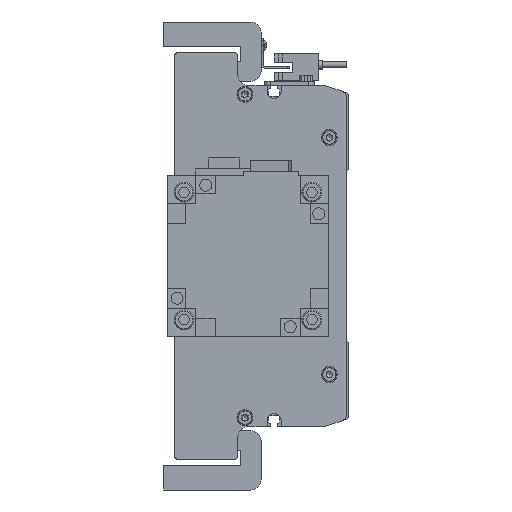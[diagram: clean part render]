
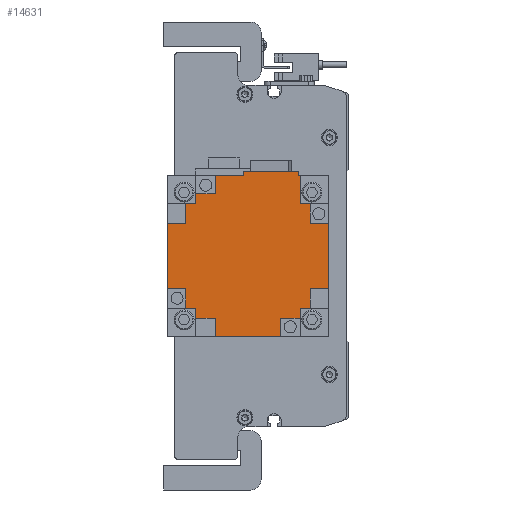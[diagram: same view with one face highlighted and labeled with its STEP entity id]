
A CAD part, left-side view. The second image highlights one B-rep face of the part: STEP entity #14631.
In plain terms, the highlighted planar face has unit normal (-1, 0, 0) as drawn and (0, 1, 0) by its records, which use the part's own axes.
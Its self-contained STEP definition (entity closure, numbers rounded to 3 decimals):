
#1456=ORIENTED_EDGE('',*,*,#5492,.T.);
#1457=ORIENTED_EDGE('',*,*,#5493,.T.);
#1458=ORIENTED_EDGE('',*,*,#5494,.T.);
#1459=ORIENTED_EDGE('',*,*,#5495,.T.);
#1460=ORIENTED_EDGE('',*,*,#5496,.T.);
#1461=ORIENTED_EDGE('',*,*,#5497,.F.);
#1462=ORIENTED_EDGE('',*,*,#5498,.F.);
#1463=ORIENTED_EDGE('',*,*,#5499,.T.);
#1464=ORIENTED_EDGE('',*,*,#5500,.T.);
#1465=ORIENTED_EDGE('',*,*,#5501,.T.);
#1466=ORIENTED_EDGE('',*,*,#5502,.T.);
#1467=ORIENTED_EDGE('',*,*,#5503,.T.);
#1468=ORIENTED_EDGE('',*,*,#5504,.F.);
#1469=ORIENTED_EDGE('',*,*,#5505,.F.);
#1470=ORIENTED_EDGE('',*,*,#5506,.T.);
#1471=ORIENTED_EDGE('',*,*,#5507,.T.);
#1472=ORIENTED_EDGE('',*,*,#5508,.T.);
#1473=ORIENTED_EDGE('',*,*,#5509,.T.);
#1474=ORIENTED_EDGE('',*,*,#5510,.T.);
#1475=ORIENTED_EDGE('',*,*,#5511,.F.);
#1476=ORIENTED_EDGE('',*,*,#5512,.F.);
#1477=ORIENTED_EDGE('',*,*,#5483,.T.);
#1478=ORIENTED_EDGE('',*,*,#5513,.F.);
#1479=ORIENTED_EDGE('',*,*,#5474,.F.);
#1480=ORIENTED_EDGE('',*,*,#5514,.T.);
#1481=ORIENTED_EDGE('',*,*,#5489,.T.);
#1482=ORIENTED_EDGE('',*,*,#5515,.T.);
#1483=ORIENTED_EDGE('',*,*,#5516,.T.);
#1484=ORIENTED_EDGE('',*,*,#5517,.F.);
#1485=ORIENTED_EDGE('',*,*,#5518,.F.);
#5474=EDGE_CURVE('',#7524,#7525,#9006,.T.);
#5483=EDGE_CURVE('',#7534,#7532,#9015,.T.);
#5489=EDGE_CURVE('',#7540,#7539,#9021,.T.);
#5492=EDGE_CURVE('',#7542,#7543,#9024,.T.);
#5493=EDGE_CURVE('',#7543,#7544,#9025,.T.);
#5494=EDGE_CURVE('',#7544,#7545,#9026,.T.);
#5495=EDGE_CURVE('',#7545,#7546,#9027,.T.);
#5496=EDGE_CURVE('',#7546,#7547,#9028,.T.);
#5497=EDGE_CURVE('',#7548,#7547,#9029,.T.);
#5498=EDGE_CURVE('',#7549,#7548,#9030,.T.);
#5499=EDGE_CURVE('',#7549,#7550,#9031,.T.);
#5500=EDGE_CURVE('',#7550,#7551,#9032,.T.);
#5501=EDGE_CURVE('',#7551,#7552,#9033,.T.);
#5502=EDGE_CURVE('',#7552,#7553,#9034,.T.);
#5503=EDGE_CURVE('',#7553,#7554,#9035,.T.);
#5504=EDGE_CURVE('',#7555,#7554,#9036,.T.);
#5505=EDGE_CURVE('',#7556,#7555,#9037,.T.);
#5506=EDGE_CURVE('',#7556,#7557,#9038,.T.);
#5507=EDGE_CURVE('',#7557,#7558,#9039,.T.);
#5508=EDGE_CURVE('',#7558,#7559,#9040,.T.);
#5509=EDGE_CURVE('',#7559,#7560,#9041,.T.);
#5510=EDGE_CURVE('',#7560,#7561,#9042,.T.);
#5511=EDGE_CURVE('',#7562,#7561,#9043,.T.);
#5512=EDGE_CURVE('',#7534,#7562,#9044,.T.);
#5513=EDGE_CURVE('',#7525,#7532,#9045,.T.);
#5514=EDGE_CURVE('',#7524,#7540,#9046,.T.);
#5515=EDGE_CURVE('',#7539,#7563,#9047,.T.);
#5516=EDGE_CURVE('',#7563,#7564,#9048,.T.);
#5517=EDGE_CURVE('',#7565,#7564,#9049,.T.);
#5518=EDGE_CURVE('',#7542,#7565,#9050,.T.);
#7524=VERTEX_POINT('',#21776);
#7525=VERTEX_POINT('',#21777);
#7532=VERTEX_POINT('',#21793);
#7534=VERTEX_POINT('',#21796);
#7539=VERTEX_POINT('',#21806);
#7540=VERTEX_POINT('',#21808);
#7542=VERTEX_POINT('',#21814);
#7543=VERTEX_POINT('',#21815);
#7544=VERTEX_POINT('',#21817);
#7545=VERTEX_POINT('',#21819);
#7546=VERTEX_POINT('',#21821);
#7547=VERTEX_POINT('',#21823);
#7548=VERTEX_POINT('',#21825);
#7549=VERTEX_POINT('',#21827);
#7550=VERTEX_POINT('',#21829);
#7551=VERTEX_POINT('',#21831);
#7552=VERTEX_POINT('',#21833);
#7553=VERTEX_POINT('',#21835);
#7554=VERTEX_POINT('',#21837);
#7555=VERTEX_POINT('',#21839);
#7556=VERTEX_POINT('',#21841);
#7557=VERTEX_POINT('',#21843);
#7558=VERTEX_POINT('',#21845);
#7559=VERTEX_POINT('',#21847);
#7560=VERTEX_POINT('',#21849);
#7561=VERTEX_POINT('',#21851);
#7562=VERTEX_POINT('',#21853);
#7563=VERTEX_POINT('',#21858);
#7564=VERTEX_POINT('',#21860);
#7565=VERTEX_POINT('',#21862);
#9006=LINE('',#21775,#10456);
#9015=LINE('',#21795,#10465);
#9021=LINE('',#21807,#10471);
#9024=LINE('',#21813,#10474);
#9025=LINE('',#21816,#10475);
#9026=LINE('',#21818,#10476);
#9027=LINE('',#21820,#10477);
#9028=LINE('',#21822,#10478);
#9029=LINE('',#21824,#10479);
#9030=LINE('',#21826,#10480);
#9031=LINE('',#21828,#10481);
#9032=LINE('',#21830,#10482);
#9033=LINE('',#21832,#10483);
#9034=LINE('',#21834,#10484);
#9035=LINE('',#21836,#10485);
#9036=LINE('',#21838,#10486);
#9037=LINE('',#21840,#10487);
#9038=LINE('',#21842,#10488);
#9039=LINE('',#21844,#10489);
#9040=LINE('',#21846,#10490);
#9041=LINE('',#21848,#10491);
#9042=LINE('',#21850,#10492);
#9043=LINE('',#21852,#10493);
#9044=LINE('',#21854,#10494);
#9045=LINE('',#21855,#10495);
#9046=LINE('',#21856,#10496);
#9047=LINE('',#21857,#10497);
#9048=LINE('',#21859,#10498);
#9049=LINE('',#21861,#10499);
#9050=LINE('',#21863,#10500);
#10456=VECTOR('',#17354,1000.);
#10465=VECTOR('',#17365,1000.);
#10471=VECTOR('',#17371,1000.);
#10474=VECTOR('',#17376,1000.);
#10475=VECTOR('',#17377,1000.);
#10476=VECTOR('',#17378,1000.);
#10477=VECTOR('',#17379,1000.);
#10478=VECTOR('',#17380,1000.);
#10479=VECTOR('',#17381,1000.);
#10480=VECTOR('',#17382,1000.);
#10481=VECTOR('',#17383,1000.);
#10482=VECTOR('',#17384,1000.);
#10483=VECTOR('',#17385,1000.);
#10484=VECTOR('',#17386,1000.);
#10485=VECTOR('',#17387,1000.);
#10486=VECTOR('',#17388,1000.);
#10487=VECTOR('',#17389,1000.);
#10488=VECTOR('',#17390,1000.);
#10489=VECTOR('',#17391,1000.);
#10490=VECTOR('',#17392,1000.);
#10491=VECTOR('',#17393,1000.);
#10492=VECTOR('',#17394,1000.);
#10493=VECTOR('',#17395,1000.);
#10494=VECTOR('',#17396,1000.);
#10495=VECTOR('',#17397,1000.);
#10496=VECTOR('',#17398,1000.);
#10497=VECTOR('',#17399,1000.);
#10498=VECTOR('',#17400,1000.);
#10499=VECTOR('',#17401,1000.);
#10500=VECTOR('',#17402,1000.);
#11850=EDGE_LOOP('',(#1456,#1457,#1458,#1459,#1460,#1461,#1462,#1463,#1464,
#1465,#1466,#1467,#1468,#1469,#1470,#1471,#1472,#1473,#1474,#1475,#1476,
#1477,#1478,#1479,#1480,#1481,#1482,#1483,#1484,#1485));
#12964=FACE_BOUND('',#11850,.T.);
#14063=PLANE('',#15619);
#14631=ADVANCED_FACE('',(#12964),#14063,.T.);
#15619=AXIS2_PLACEMENT_3D('',#21812,#17374,#17375);
#17354=DIRECTION('',(0.,0.,1.));
#17365=DIRECTION('',(0.,0.,-1.));
#17371=DIRECTION('',(0.,0.,-1.));
#17374=DIRECTION('',(0.,1.,0.));
#17375=DIRECTION('',(0.,0.,1.));
#17376=DIRECTION('',(-1.,0.,0.));
#17377=DIRECTION('',(0.,0.,-1.));
#17378=DIRECTION('',(-1.,0.,0.));
#17379=DIRECTION('',(0.,0.,1.));
#17380=DIRECTION('',(-1.,0.,0.));
#17381=DIRECTION('',(0.,0.,-1.));
#17382=DIRECTION('',(1.,0.,0.));
#17383=DIRECTION('',(0.,0.,1.));
#17384=DIRECTION('',(-1.,0.,0.));
#17385=DIRECTION('',(0.,0.,1.));
#17386=DIRECTION('',(1.,0.,0.));
#17387=DIRECTION('',(0.,0.,1.));
#17388=DIRECTION('',(-1.,0.,0.));
#17389=DIRECTION('',(0.,0.,-1.));
#17390=DIRECTION('',(1.,0.,0.));
#17391=DIRECTION('',(0.,0.,1.));
#17392=DIRECTION('',(1.,0.,0.));
#17393=DIRECTION('',(0.,0.,-1.));
#17394=DIRECTION('',(1.,0.,0.));
#17395=DIRECTION('',(0.,0.,1.));
#17396=DIRECTION('',(-1.,0.,0.));
#17397=DIRECTION('',(-1.,0.,0.));
#17398=DIRECTION('',(-1.,0.,0.));
#17399=DIRECTION('',(-1.,0.,0.));
#17400=DIRECTION('',(0.,0.,-1.));
#17401=DIRECTION('',(1.,0.,0.));
#17402=DIRECTION('',(0.,0.,1.));
#21775=CARTESIAN_POINT('',(42.,138.3,-2.2));
#21776=CARTESIAN_POINT('',(42.,138.3,-2.2));
#21777=CARTESIAN_POINT('',(42.,138.3,25.2));
#21793=CARTESIAN_POINT('',(39.95,138.3,25.2));
#21795=CARTESIAN_POINT('',(39.95,138.3,39.95));
#21796=CARTESIAN_POINT('',(39.95,138.3,25.95));
#21806=CARTESIAN_POINT('',(39.95,138.3,-16.35));
#21807=CARTESIAN_POINT('',(39.95,138.3,39.95));
#21808=CARTESIAN_POINT('',(39.95,138.3,-2.2));
#21812=CARTESIAN_POINT('',(0.,138.3,0.));
#21813=CARTESIAN_POINT('',(0.,138.3,-30.95));
#21814=CARTESIAN_POINT('',(25.95,138.3,-30.95));
#21815=CARTESIAN_POINT('',(16.35,138.3,-30.95));
#21816=CARTESIAN_POINT('',(16.35,138.3,0.));
#21817=CARTESIAN_POINT('',(16.35,138.3,-39.95));
#21818=CARTESIAN_POINT('',(39.95,138.3,-39.95));
#21819=CARTESIAN_POINT('',(-16.35,138.3,-39.95));
#21820=CARTESIAN_POINT('',(-16.35,138.3,0.));
#21821=CARTESIAN_POINT('',(-16.35,138.3,-30.95));
#21822=CARTESIAN_POINT('',(0.,138.3,-30.95));
#21823=CARTESIAN_POINT('',(-25.95,138.3,-30.95));
#21824=CARTESIAN_POINT('',(-25.95,138.3,0.));
#21825=CARTESIAN_POINT('',(-25.95,138.3,-25.95));
#21826=CARTESIAN_POINT('',(0.,138.3,-25.95));
#21827=CARTESIAN_POINT('',(-30.95,138.3,-25.95));
#21828=CARTESIAN_POINT('',(-30.95,138.3,0.));
#21829=CARTESIAN_POINT('',(-30.95,138.3,-16.35));
#21830=CARTESIAN_POINT('',(0.,138.3,-16.35));
#21831=CARTESIAN_POINT('',(-39.95,138.3,-16.35));
#21832=CARTESIAN_POINT('',(-39.95,138.3,-39.95));
#21833=CARTESIAN_POINT('',(-39.95,138.3,16.35));
#21834=CARTESIAN_POINT('',(0.,138.3,16.35));
#21835=CARTESIAN_POINT('',(-30.95,138.3,16.35));
#21836=CARTESIAN_POINT('',(-30.95,138.3,0.));
#21837=CARTESIAN_POINT('',(-30.95,138.3,25.95));
#21838=CARTESIAN_POINT('',(0.,138.3,25.95));
#21839=CARTESIAN_POINT('',(-25.95,138.3,25.95));
#21840=CARTESIAN_POINT('',(-25.95,138.3,0.));
#21841=CARTESIAN_POINT('',(-25.95,138.3,30.95));
#21842=CARTESIAN_POINT('',(0.,138.3,30.95));
#21843=CARTESIAN_POINT('',(-16.35,138.3,30.95));
#21844=CARTESIAN_POINT('',(-16.35,138.3,0.));
#21845=CARTESIAN_POINT('',(-16.35,138.3,39.95));
#21846=CARTESIAN_POINT('',(-39.95,138.3,39.95));
#21847=CARTESIAN_POINT('',(16.35,138.3,39.95));
#21848=CARTESIAN_POINT('',(16.35,138.3,0.));
#21849=CARTESIAN_POINT('',(16.35,138.3,30.95));
#21850=CARTESIAN_POINT('',(0.,138.3,30.95));
#21851=CARTESIAN_POINT('',(25.95,138.3,30.95));
#21852=CARTESIAN_POINT('',(25.95,138.3,0.));
#21853=CARTESIAN_POINT('',(25.95,138.3,25.95));
#21854=CARTESIAN_POINT('',(0.,138.3,25.95));
#21855=CARTESIAN_POINT('',(42.,138.3,25.2));
#21856=CARTESIAN_POINT('',(42.,138.3,-2.2));
#21857=CARTESIAN_POINT('',(0.,138.3,-16.35));
#21858=CARTESIAN_POINT('',(30.95,138.3,-16.35));
#21859=CARTESIAN_POINT('',(30.95,138.3,0.));
#21860=CARTESIAN_POINT('',(30.95,138.3,-25.95));
#21861=CARTESIAN_POINT('',(0.,138.3,-25.95));
#21862=CARTESIAN_POINT('',(25.95,138.3,-25.95));
#21863=CARTESIAN_POINT('',(25.95,138.3,0.));
